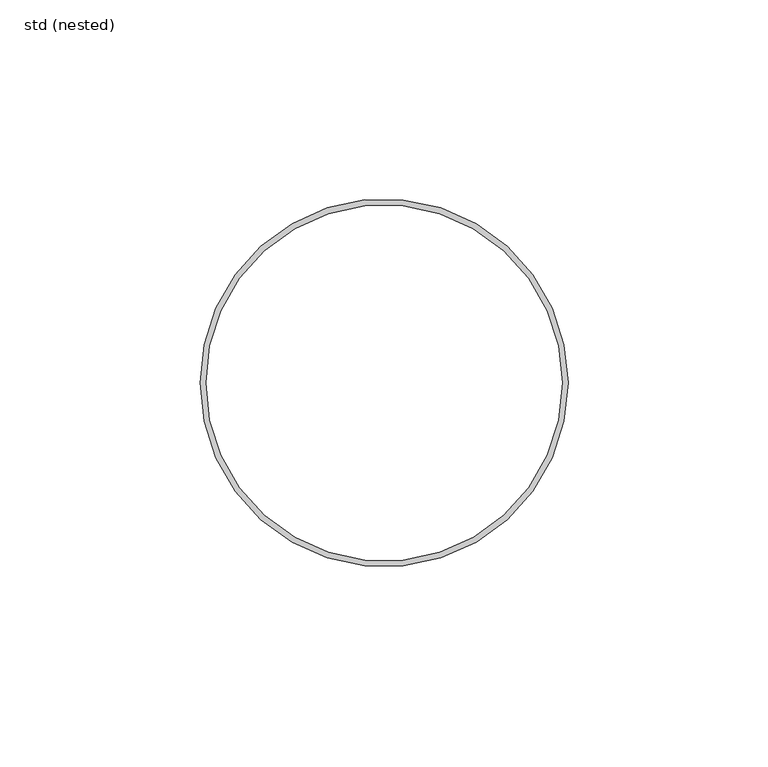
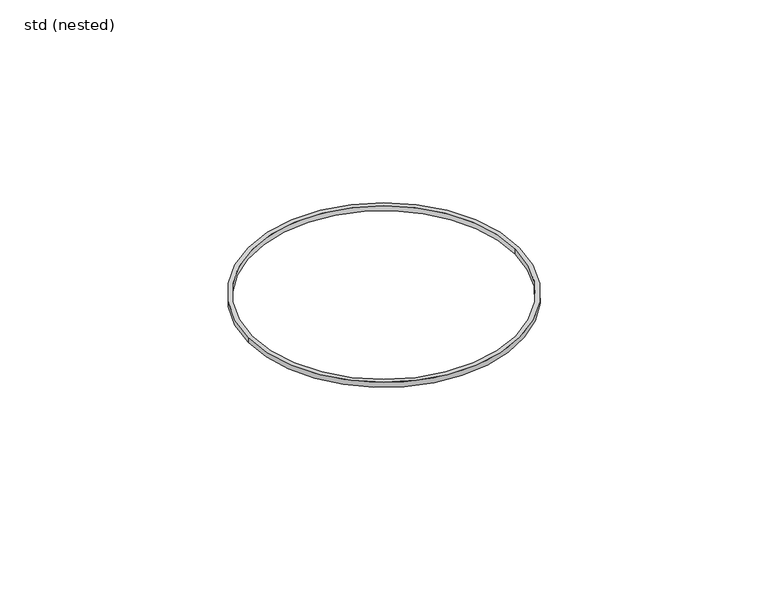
"""IFC4 building model written with IfcOpenShell, lengths in millimetres: pipe fitting geometry, ZZZ_do not use_PIF_GEN_WPB_GM-X (compound) pipe seal_ACO : std (nested)."""

from ifc_helpers import new_model, si_unit, point, frame, origin, origin_2d, place, context, project, spatial, circle_curve, trimmed, segment, composite_curve, outline, extrude, source, transform, mapped, element, save


def std_nested_a1955cf2(model_context):
    return source(origin(), model_context, "Body", "SweptSolid", [
        extrude(outline(composite_curve([segment(trimmed(circle_curve(origin_2d(), 46.0), [point((46.0, 0.0))], [point((-46.0, 0.0))], False, "CARTESIAN"), True, "CONTINUOUS"), segment(trimmed(circle_curve(origin_2d(), 46.0), [point((-46.0, 0.0))], [point((46.0, 0.0))], False, "CARTESIAN"), True, "CONTINUOUS")], self_intersect=False), holes=[composite_curve([segment(trimmed(circle_curve(origin_2d(), 44.5), [point((44.5, 0.0))], [point((-44.5, 0.0))], True, "CARTESIAN"), True, "CONTINUOUS"), segment(trimmed(circle_curve(origin_2d(), 44.5), [point((-44.5, 0.0))], [point((44.5, 0.0))], True, "CARTESIAN"), True, "CONTINUOUS")], self_intersect=False)]), frame((0.0, 0.0, -61.8), z_axis=(0.0, 0.0, 1.0), x_axis=(1.0, 0.0, 0.0)), (0.0, 0.0, 1.0), 1.8),
    ])


if __name__ == "__main__":
    model = new_model("IFC4")
    model_context = context("Model", 3, world=origin())
    ifc_project = project(units=[si_unit("LENGTHUNIT", "METRE", prefix="MILLI")], contexts=[model_context])
    site = spatial("IfcSite", under=ifc_project)
    building = spatial("IfcBuilding", under=site)
    placement = place(None, origin())
    std_nested_shape = std_nested_a1955cf2(model_context)
    element("IfcPipeFitting", 1, ObjectType="ZZZ_do not use_PIF_GEN_WPB_GM-X (compound) pipe seal_ACO : std (nested)", at=placement, inside=building, context=model_context, shape_type="MappedRepresentation", body=[
        mapped(std_nested_shape, transform((0.0, 0.0, 0.0), x_axis=(1.0, 0.0, 0.0), y_axis=(0.0, 1.0, 0.0), z_axis=(0.0, 0.0, 1.0))),
    ])
    save(model, "model.ifc")
